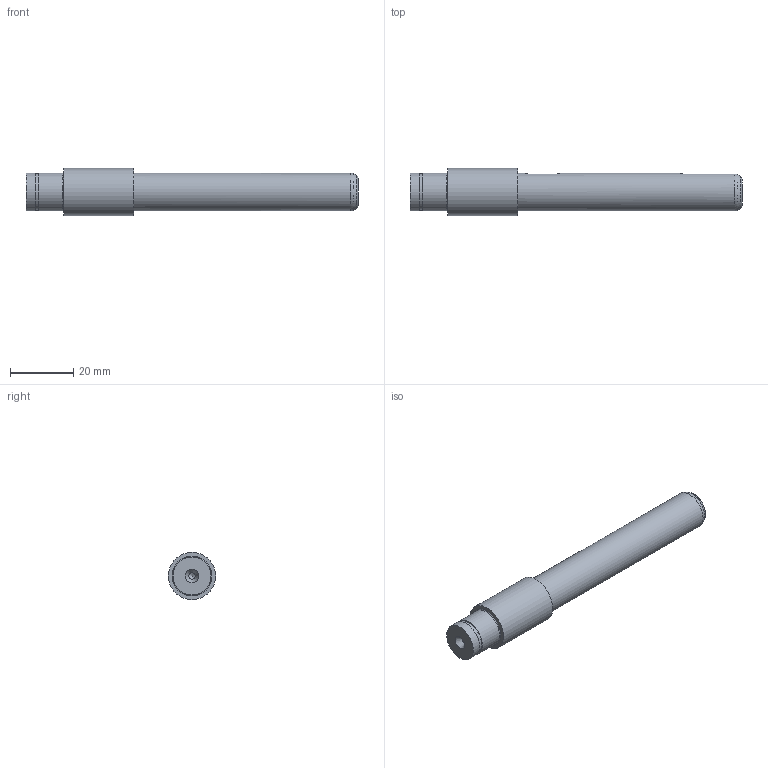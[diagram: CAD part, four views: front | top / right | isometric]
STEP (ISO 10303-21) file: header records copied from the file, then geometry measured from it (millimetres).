
FILE_DESCRIPTION(/* description */ (''),/* implementation_level */ '2;1');
FILE_NAME(/* name */ '',/* time_stamp */ '2026-03-04T10:07:00+09:00',/* author */ ('jhkim'),/* organization */ (''),/* preprocessor_version */ 'ST-DEVELOPER v20.1',/* originating_system */ 'Autodesk Inventor 2026',/* authorisation */ '');
FILE_SCHEMA (('AUTOMOTIVE_DESIGN { 1 0 10303 214 3 1 1 }'));
Length unit declared in the file: millimetre
Products named in the file (1): 축
Bounding box: 105 x 15 x 15 mm (x, y, z)
Volume: 12892.1 mm3; surface area: 4698.7 mm2
Topology: 1 solids, 1 shells, 30 faces, 68 edges, 45 vertices
Faces by surface type: plane 12, cylinder 10, cone 5, torus 3
Full cylindrical faces by diameter (mm): 2 x2, 11.5 x1, 12 x3, 15 x1
Entity records: 939 total; most frequent: CARTESIAN_POINT 224, DIRECTION 142, ORIENTED_EDGE 132, EDGE_CURVE 66, AXIS2_PLACEMENT_3D 57, VERTEX_POINT 45, EDGE_LOOP 37, FACE_OUTER_BOUND 30
